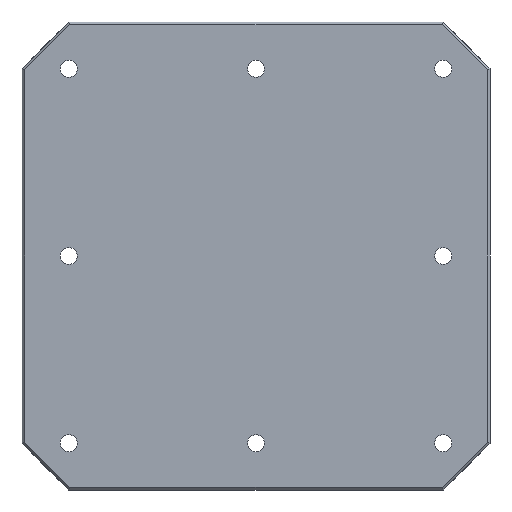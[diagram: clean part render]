
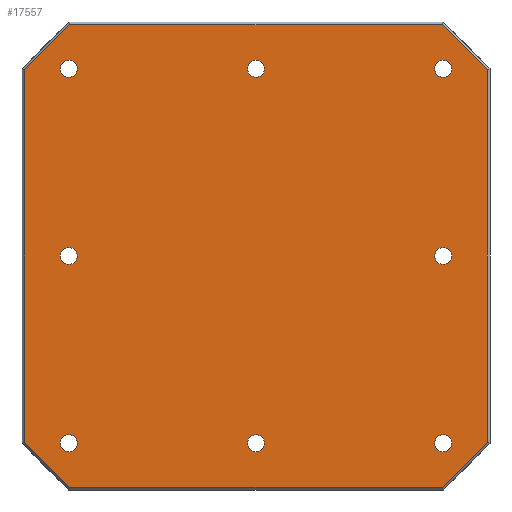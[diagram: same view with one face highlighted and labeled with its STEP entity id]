
A CAD part, front view. The second image highlights one B-rep face of the part: STEP entity #17557.
In plain terms, the highlighted planar face has unit normal (0, -1, 0).
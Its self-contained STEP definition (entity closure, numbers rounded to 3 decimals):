
#6151=CARTESIAN_POINT('',(200.,-30.,0.));
#6152=DIRECTION('',(0.,-1.,0.));
#6153=DIRECTION('',(1.,0.,0.));
#6154=AXIS2_PLACEMENT_3D('',#6151,#6152,#6153);
#6156=CARTESIAN_POINT('',(200.,-30.,0.));
#6157=DIRECTION('',(0.,-1.,0.));
#6158=DIRECTION('',(-1.,0.,0.));
#6159=AXIS2_PLACEMENT_3D('',#6156,#6157,#6158);
#6161=CARTESIAN_POINT('',(-200.,-30.,0.));
#6162=DIRECTION('',(0.,-1.,0.));
#6163=DIRECTION('',(1.,0.,0.));
#6164=AXIS2_PLACEMENT_3D('',#6161,#6162,#6163);
#6166=CARTESIAN_POINT('',(-200.,-30.,0.));
#6167=DIRECTION('',(0.,-1.,0.));
#6168=DIRECTION('',(-1.,0.,0.));
#6169=AXIS2_PLACEMENT_3D('',#6166,#6167,#6168);
#6171=CARTESIAN_POINT('',(200.,-30.,200.));
#6172=DIRECTION('',(0.,-1.,0.));
#6173=DIRECTION('',(1.,0.,0.));
#6174=AXIS2_PLACEMENT_3D('',#6171,#6172,#6173);
#6176=CARTESIAN_POINT('',(200.,-30.,200.));
#6177=DIRECTION('',(0.,-1.,0.));
#6178=DIRECTION('',(-1.,0.,0.));
#6179=AXIS2_PLACEMENT_3D('',#6176,#6177,#6178);
#6181=CARTESIAN_POINT('',(0.,-30.,200.));
#6182=DIRECTION('',(0.,-1.,0.));
#6183=DIRECTION('',(1.,0.,0.));
#6184=AXIS2_PLACEMENT_3D('',#6181,#6182,#6183);
#6186=CARTESIAN_POINT('',(0.,-30.,200.));
#6187=DIRECTION('',(0.,-1.,0.));
#6188=DIRECTION('',(-1.,0.,0.));
#6189=AXIS2_PLACEMENT_3D('',#6186,#6187,#6188);
#6191=CARTESIAN_POINT('',(-200.,-30.,200.));
#6192=DIRECTION('',(0.,-1.,0.));
#6193=DIRECTION('',(1.,0.,0.));
#6194=AXIS2_PLACEMENT_3D('',#6191,#6192,#6193);
#6196=CARTESIAN_POINT('',(-200.,-30.,200.));
#6197=DIRECTION('',(0.,-1.,0.));
#6198=DIRECTION('',(-1.,0.,0.));
#6199=AXIS2_PLACEMENT_3D('',#6196,#6197,#6198);
#6201=CARTESIAN_POINT('',(200.,-30.,-200.));
#6202=DIRECTION('',(0.,1.,0.));
#6203=DIRECTION('',(1.,0.,0.));
#6204=AXIS2_PLACEMENT_3D('',#6201,#6202,#6203);
#6206=CARTESIAN_POINT('',(200.,-30.,-200.));
#6207=DIRECTION('',(0.,1.,0.));
#6208=DIRECTION('',(-1.,0.,0.));
#6209=AXIS2_PLACEMENT_3D('',#6206,#6207,#6208);
#6211=CARTESIAN_POINT('',(0.,-30.,-200.));
#6212=DIRECTION('',(0.,1.,0.));
#6213=DIRECTION('',(1.,0.,0.));
#6214=AXIS2_PLACEMENT_3D('',#6211,#6212,#6213);
#6216=CARTESIAN_POINT('',(0.,-30.,-200.));
#6217=DIRECTION('',(0.,1.,0.));
#6218=DIRECTION('',(-1.,0.,0.));
#6219=AXIS2_PLACEMENT_3D('',#6216,#6217,#6218);
#6221=CARTESIAN_POINT('',(-200.,-30.,-200.));
#6222=DIRECTION('',(0.,1.,0.));
#6223=DIRECTION('',(1.,0.,0.));
#6224=AXIS2_PLACEMENT_3D('',#6221,#6222,#6223);
#6226=CARTESIAN_POINT('',(-200.,-30.,-200.));
#6227=DIRECTION('',(0.,1.,0.));
#6228=DIRECTION('',(-1.,0.,0.));
#6229=AXIS2_PLACEMENT_3D('',#6226,#6227,#6228);
#6231=DIRECTION('',(0.,0.,1.));
#6232=VECTOR('',#6231,397.515);
#6233=CARTESIAN_POINT('',(247.,-30.,-198.757));
#6234=LINE('',#6233,#6232);
#6235=DIRECTION('',(0.707,0.,0.707));
#6236=VECTOR('',#6235,68.225);
#6237=CARTESIAN_POINT('',(198.757,-30.,-247.));
#6238=LINE('',#6237,#6236);
#6239=DIRECTION('',(1.,0.,0.));
#6240=VECTOR('',#6239,397.515);
#6241=CARTESIAN_POINT('',(-198.757,-30.,-247.));
#6242=LINE('',#6241,#6240);
#6243=DIRECTION('',(0.707,0.,-0.707));
#6244=VECTOR('',#6243,68.225);
#6245=CARTESIAN_POINT('',(-247.,-30.,-198.757));
#6246=LINE('',#6245,#6244);
#6247=DIRECTION('',(0.,0.,-1.));
#6248=VECTOR('',#6247,397.515);
#6249=CARTESIAN_POINT('',(-247.,-30.,198.757));
#6250=LINE('',#6249,#6248);
#6251=DIRECTION('',(-0.707,0.,-0.707));
#6252=VECTOR('',#6251,68.225);
#6253=CARTESIAN_POINT('',(-198.757,-30.,247.));
#6254=LINE('',#6253,#6252);
#6255=DIRECTION('',(-1.,0.,0.));
#6256=VECTOR('',#6255,397.515);
#6257=CARTESIAN_POINT('',(198.757,-30.,247.));
#6258=LINE('',#6257,#6256);
#6259=DIRECTION('',(-0.707,0.,0.707));
#6260=VECTOR('',#6259,68.225);
#6261=CARTESIAN_POINT('',(247.,-30.,198.757));
#6262=LINE('',#6261,#6260);
#7813=CARTESIAN_POINT('',(-191.,-30.,-200.));
#7814=CARTESIAN_POINT('',(-209.,-30.,-200.));
#7815=VERTEX_POINT('',#7813);
#7816=VERTEX_POINT('',#7814);
#7857=CARTESIAN_POINT('',(9.,-30.,-200.));
#7858=CARTESIAN_POINT('',(-9.,-30.,-200.));
#7859=VERTEX_POINT('',#7857);
#7860=VERTEX_POINT('',#7858);
#7901=CARTESIAN_POINT('',(209.,-30.,-200.));
#7902=CARTESIAN_POINT('',(191.,-30.,-200.));
#7903=VERTEX_POINT('',#7901);
#7904=VERTEX_POINT('',#7902);
#7945=CARTESIAN_POINT('',(-191.,-30.,200.));
#7946=VERTEX_POINT('',#7945);
#7947=CARTESIAN_POINT('',(-209.,-30.,200.));
#7948=VERTEX_POINT('',#7947);
#7957=CARTESIAN_POINT('',(9.,-30.,200.));
#7958=VERTEX_POINT('',#7957);
#7959=CARTESIAN_POINT('',(-9.,-30.,200.));
#7960=VERTEX_POINT('',#7959);
#7969=CARTESIAN_POINT('',(209.,-30.,200.));
#7970=VERTEX_POINT('',#7969);
#7971=CARTESIAN_POINT('',(191.,-30.,200.));
#7972=VERTEX_POINT('',#7971);
#8085=CARTESIAN_POINT('',(-191.,-30.,0.));
#8086=VERTEX_POINT('',#8085);
#8087=CARTESIAN_POINT('',(-209.,-30.,0.));
#8088=VERTEX_POINT('',#8087);
#8089=CARTESIAN_POINT('',(209.,-30.,0.));
#8090=VERTEX_POINT('',#8089);
#8091=CARTESIAN_POINT('',(191.,-30.,0.));
#8092=VERTEX_POINT('',#8091);
#9015=CARTESIAN_POINT('',(247.,-30.,-198.757));
#9016=CARTESIAN_POINT('',(247.,-30.,198.757));
#9017=VERTEX_POINT('',#9015);
#9018=VERTEX_POINT('',#9016);
#9019=CARTESIAN_POINT('',(198.757,-30.,-247.));
#9020=VERTEX_POINT('',#9019);
#9025=CARTESIAN_POINT('',(-198.757,-30.,-247.));
#9026=VERTEX_POINT('',#9025);
#9027=CARTESIAN_POINT('',(-247.,-30.,-198.757));
#9028=VERTEX_POINT('',#9027);
#9033=CARTESIAN_POINT('',(-247.,-30.,198.757));
#9034=VERTEX_POINT('',#9033);
#9037=CARTESIAN_POINT('',(-198.757,-30.,247.));
#9038=VERTEX_POINT('',#9037);
#9041=CARTESIAN_POINT('',(198.757,-30.,247.));
#9042=VERTEX_POINT('',#9041);
#17487=CARTESIAN_POINT('',(0.,-30.,0.));
#17488=DIRECTION('',(0.,1.,0.));
#17489=DIRECTION('',(1.,0.,0.));
#17490=AXIS2_PLACEMENT_3D('',#17487,#17488,#17489);
#17491=PLANE('',#17490);
#17493=ORIENTED_EDGE('',*,*,#17492,.F.);
#17495=ORIENTED_EDGE('',*,*,#17494,.F.);
#17497=ORIENTED_EDGE('',*,*,#17496,.F.);
#17499=ORIENTED_EDGE('',*,*,#17498,.F.);
#17501=ORIENTED_EDGE('',*,*,#17500,.F.);
#17503=ORIENTED_EDGE('',*,*,#17502,.F.);
#17505=ORIENTED_EDGE('',*,*,#17504,.F.);
#17507=ORIENTED_EDGE('',*,*,#17506,.F.);
#17508=EDGE_LOOP('',(#17493,#17495,#17497,#17499,#17501,#17503,#17505,#17507));
#17509=FACE_OUTER_BOUND('',#17508,.F.);
#17511=ORIENTED_EDGE('',*,*,#17510,.T.);
#17513=ORIENTED_EDGE('',*,*,#17512,.T.);
#17514=EDGE_LOOP('',(#17511,#17513));
#17515=FACE_BOUND('',#17514,.F.);
#17517=ORIENTED_EDGE('',*,*,#17516,.T.);
#17519=ORIENTED_EDGE('',*,*,#17518,.T.);
#17520=EDGE_LOOP('',(#17517,#17519));
#17521=FACE_BOUND('',#17520,.F.);
#17523=ORIENTED_EDGE('',*,*,#17522,.T.);
#17525=ORIENTED_EDGE('',*,*,#17524,.T.);
#17526=EDGE_LOOP('',(#17523,#17525));
#17527=FACE_BOUND('',#17526,.F.);
#17529=ORIENTED_EDGE('',*,*,#17528,.T.);
#17531=ORIENTED_EDGE('',*,*,#17530,.T.);
#17532=EDGE_LOOP('',(#17529,#17531));
#17533=FACE_BOUND('',#17532,.F.);
#17535=ORIENTED_EDGE('',*,*,#17534,.F.);
#17536=ORIENTED_EDGE('',*,*,#17477,.F.);
#17537=EDGE_LOOP('',(#17535,#17536));
#17538=FACE_BOUND('',#17537,.F.);
#17540=ORIENTED_EDGE('',*,*,#17539,.F.);
#17542=ORIENTED_EDGE('',*,*,#17541,.F.);
#17543=EDGE_LOOP('',(#17540,#17542));
#17544=FACE_BOUND('',#17543,.F.);
#17546=ORIENTED_EDGE('',*,*,#17545,.F.);
#17548=ORIENTED_EDGE('',*,*,#17547,.F.);
#17549=EDGE_LOOP('',(#17546,#17548));
#17550=FACE_BOUND('',#17549,.F.);
#17552=ORIENTED_EDGE('',*,*,#17551,.T.);
#17554=ORIENTED_EDGE('',*,*,#17553,.T.);
#17555=EDGE_LOOP('',(#17552,#17554));
#17556=FACE_BOUND('',#17555,.F.);
#17557=ADVANCED_FACE('',(#17509,#17515,#17521,#17527,#17533,#17538,#17544,
#17550,#17556),#17491,.F.);
#6155=CIRCLE('',#6154,9.);
#6160=CIRCLE('',#6159,9.);
#6165=CIRCLE('',#6164,9.);
#6170=CIRCLE('',#6169,9.);
#6175=CIRCLE('',#6174,9.);
#6180=CIRCLE('',#6179,9.);
#6185=CIRCLE('',#6184,9.);
#6190=CIRCLE('',#6189,9.);
#6195=CIRCLE('',#6194,9.);
#6200=CIRCLE('',#6199,9.);
#6205=CIRCLE('',#6204,9.);
#6210=CIRCLE('',#6209,9.);
#6215=CIRCLE('',#6214,9.);
#6220=CIRCLE('',#6219,9.);
#6225=CIRCLE('',#6224,9.);
#6230=CIRCLE('',#6229,9.);
#17477=EDGE_CURVE('',#7904,#7903,#6210,.T.);
#17492=EDGE_CURVE('',#9017,#9018,#6234,.T.);
#17494=EDGE_CURVE('',#9020,#9017,#6238,.T.);
#17496=EDGE_CURVE('',#9026,#9020,#6242,.T.);
#17498=EDGE_CURVE('',#9028,#9026,#6246,.T.);
#17500=EDGE_CURVE('',#9034,#9028,#6250,.T.);
#17502=EDGE_CURVE('',#9038,#9034,#6254,.T.);
#17504=EDGE_CURVE('',#9042,#9038,#6258,.T.);
#17506=EDGE_CURVE('',#9018,#9042,#6262,.T.);
#17510=EDGE_CURVE('',#8086,#8088,#6165,.T.);
#17512=EDGE_CURVE('',#8088,#8086,#6170,.T.);
#17516=EDGE_CURVE('',#7970,#7972,#6175,.T.);
#17518=EDGE_CURVE('',#7972,#7970,#6180,.T.);
#17522=EDGE_CURVE('',#7958,#7960,#6185,.T.);
#17524=EDGE_CURVE('',#7960,#7958,#6190,.T.);
#17528=EDGE_CURVE('',#7946,#7948,#6195,.T.);
#17530=EDGE_CURVE('',#7948,#7946,#6200,.T.);
#17534=EDGE_CURVE('',#7903,#7904,#6205,.T.);
#17539=EDGE_CURVE('',#7859,#7860,#6215,.T.);
#17541=EDGE_CURVE('',#7860,#7859,#6220,.T.);
#17545=EDGE_CURVE('',#7815,#7816,#6225,.T.);
#17547=EDGE_CURVE('',#7816,#7815,#6230,.T.);
#17551=EDGE_CURVE('',#8090,#8092,#6155,.T.);
#17553=EDGE_CURVE('',#8092,#8090,#6160,.T.);
